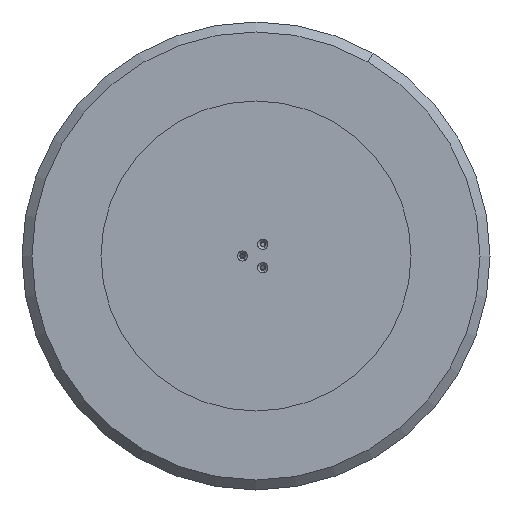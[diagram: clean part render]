
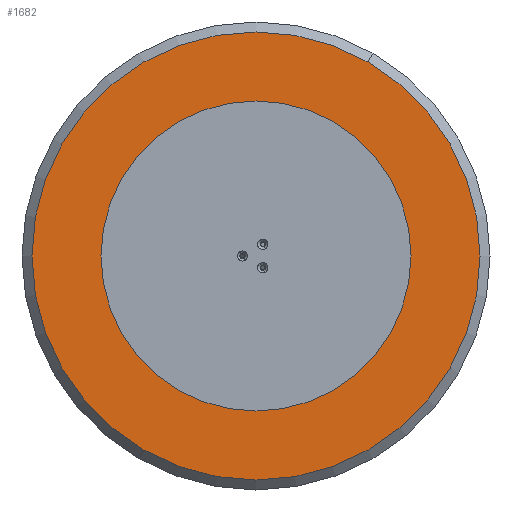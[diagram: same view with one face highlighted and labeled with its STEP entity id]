
A CAD part, front view. The second image highlights one B-rep face of the part: STEP entity #1682.
In plain terms, the highlighted planar face has unit normal (0, -1, 0).
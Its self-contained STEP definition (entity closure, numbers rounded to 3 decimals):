
#49 = ORIENTED_EDGE ( 'NONE', *, *, #5800, .F. ) ;
#65 = AXIS2_PLACEMENT_3D ( 'NONE', #2132, #2068, #2491 ) ;
#106 = EDGE_CURVE ( 'NONE', #3121, #3638, #1107, .T. ) ;
#152 = FACE_BOUND ( 'NONE', #5458, .T. ) ;
#161 = CIRCLE ( 'NONE', #3762, 383. ) ;
#163 = CARTESIAN_POINT ( 'NONE',  ( 0., 0., 106.297 ) ) ;
#280 = FACE_BOUND ( 'NONE', #3341, .T. ) ;
#285 = AXIS2_PLACEMENT_3D ( 'NONE', #3302, #4666, #5629 ) ;
#381 = CIRCLE ( 'NONE', #3596, 383. ) ;
#466 = ORIENTED_EDGE ( 'NONE', *, *, #1979, .F. ) ;
#481 = AXIS2_PLACEMENT_3D ( 'NONE', #704, #2120, #3601 ) ;
#683 = CIRCLE ( 'NONE', #5390, 3.4 ) ;
#688 = ORIENTED_EDGE ( 'NONE', *, *, #3974, .F. ) ;
#693 = AXIS2_PLACEMENT_3D ( 'NONE', #962, #5774, #4875 ) ;
#704 = CARTESIAN_POINT ( 'NONE',  ( 0., 0., 0. ) ) ;
#709 = CARTESIAN_POINT ( 'NONE',  ( 95., 0., -51.448 ) ) ;
#823 = VERTEX_POINT ( 'NONE', #709 ) ;
#916 = ORIENTED_EDGE ( 'NONE', *, *, #6206, .F. ) ;
#930 = AXIS2_PLACEMENT_3D ( 'NONE', #6065, #3189, #1704 ) ;
#962 = CARTESIAN_POINT ( 'NONE',  ( 0., 0., 109.697 ) ) ;
#968 = CARTESIAN_POINT ( 'NONE',  ( -95., 0., -58.248 ) ) ;
#1017 = EDGE_LOOP ( 'NONE', ( #466, #688 ) ) ;
#1090 = CIRCLE ( 'NONE', #6115, 3.4 ) ;
#1092 = DIRECTION ( 'NONE',  ( 0., 0., -1. ) ) ;
#1107 = CIRCLE ( 'NONE', #285, 3.4 ) ;
#1179 = FACE_BOUND ( 'NONE', #1017, .T. ) ;
#1215 = FACE_BOUND ( 'NONE', #2339, .T. ) ;
#1249 = ORIENTED_EDGE ( 'NONE', *, *, #2662, .F. ) ;
#1393 = VERTEX_POINT ( 'NONE', #5384 ) ;
#1599 = DIRECTION ( 'NONE',  ( 0., 0., -1. ) ) ;
#1682 = ADVANCED_FACE ( 'NONE', ( #280, #1215, #1179, #2767, #152 ), #3186, .T. ) ;
#1703 = VERTEX_POINT ( 'NONE', #2256 ) ;
#1704 = DIRECTION ( 'NONE',  ( 0., 0., -1. ) ) ;
#1805 = EDGE_CURVE ( 'NONE', #5162, #3375, #161, .T. ) ;
#1979 = EDGE_CURVE ( 'NONE', #1703, #823, #1090, .T. ) ;
#2068 = DIRECTION ( 'NONE',  ( 0., -1., 0. ) ) ;
#2120 = DIRECTION ( 'NONE',  ( 0., -1., 0. ) ) ;
#2124 = ORIENTED_EDGE ( 'NONE', *, *, #106, .F. ) ;
#2132 = CARTESIAN_POINT ( 'NONE',  ( -95., 0., -54.848 ) ) ;
#2242 = CIRCLE ( 'NONE', #2647, 3.4 ) ;
#2256 = CARTESIAN_POINT ( 'NONE',  ( 95., 0., -58.248 ) ) ;
#2339 = EDGE_LOOP ( 'NONE', ( #1249, #916 ) ) ;
#2430 = ORIENTED_EDGE ( 'NONE', *, *, #2745, .F. ) ;
#2470 = DIRECTION ( 'NONE',  ( 0., -1., 0. ) ) ;
#2491 = DIRECTION ( 'NONE',  ( 0., 0., -1. ) ) ;
#2593 = VERTEX_POINT ( 'NONE', #163 ) ;
#2647 = AXIS2_PLACEMENT_3D ( 'NONE', #4454, #5991, #1599 ) ;
#2662 = EDGE_CURVE ( 'NONE', #2593, #1393, #683, .T. ) ;
#2721 = CARTESIAN_POINT ( 'NONE',  ( 0., 0., 0. ) ) ;
#2745 = EDGE_CURVE ( 'NONE', #5352, #2884, #2845, .T. ) ;
#2767 = FACE_OUTER_BOUND ( 'NONE', #5439, .T. ) ;
#2838 = CARTESIAN_POINT ( 'NONE',  ( 0., 0., -383. ) ) ;
#2845 = CIRCLE ( 'NONE', #65, 3.4 ) ;
#2884 = VERTEX_POINT ( 'NONE', #4211 ) ;
#2948 = CARTESIAN_POINT ( 'NONE',  ( 95., 0., -54.848 ) ) ;
#3086 = CIRCLE ( 'NONE', #930, 3.4 ) ;
#3121 = VERTEX_POINT ( 'NONE', #3128 ) ;
#3128 = CARTESIAN_POINT ( 'NONE',  ( 0., 0., -3.4 ) ) ;
#3186 = PLANE ( 'NONE',  #481 ) ;
#3189 = DIRECTION ( 'NONE',  ( 0., -1., 0. ) ) ;
#3302 = CARTESIAN_POINT ( 'NONE',  ( 0., 0., 0. ) ) ;
#3341 = EDGE_LOOP ( 'NONE', ( #2430, #5613 ) ) ;
#3375 = VERTEX_POINT ( 'NONE', #3867 ) ;
#3473 = CIRCLE ( 'NONE', #693, 3.4 ) ;
#3510 = DIRECTION ( 'NONE',  ( 0., 0., -1. ) ) ;
#3584 = DIRECTION ( 'NONE',  ( 0., 0., -1. ) ) ;
#3596 = AXIS2_PLACEMENT_3D ( 'NONE', #4082, #3605, #3510 ) ;
#3601 = DIRECTION ( 'NONE',  ( 0., 0., -1. ) ) ;
#3605 = DIRECTION ( 'NONE',  ( 0., -1., 0. ) ) ;
#3638 = VERTEX_POINT ( 'NONE', #5963 ) ;
#3697 = ORIENTED_EDGE ( 'NONE', *, *, #5533, .T. ) ;
#3761 = CARTESIAN_POINT ( 'NONE',  ( -95., 0., -54.848 ) ) ;
#3762 = AXIS2_PLACEMENT_3D ( 'NONE', #2721, #6211, #4670 ) ;
#3781 = CIRCLE ( 'NONE', #3976, 3.4 ) ;
#3867 = CARTESIAN_POINT ( 'NONE',  ( 0., 0., 383. ) ) ;
#3974 = EDGE_CURVE ( 'NONE', #823, #1703, #2242, .T. ) ;
#3976 = AXIS2_PLACEMENT_3D ( 'NONE', #3761, #5743, #4815 ) ;
#4082 = CARTESIAN_POINT ( 'NONE',  ( 0., 0., 0. ) ) ;
#4211 = CARTESIAN_POINT ( 'NONE',  ( -95., 0., -51.448 ) ) ;
#4454 = CARTESIAN_POINT ( 'NONE',  ( 95., 0., -54.848 ) ) ;
#4666 = DIRECTION ( 'NONE',  ( 0., -1., 0. ) ) ;
#4670 = DIRECTION ( 'NONE',  ( 0., 0., -1. ) ) ;
#4815 = DIRECTION ( 'NONE',  ( 0., 0., -1. ) ) ;
#4875 = DIRECTION ( 'NONE',  ( 0., 0., -1. ) ) ;
#4919 = CARTESIAN_POINT ( 'NONE',  ( 0., 0., 109.697 ) ) ;
#5008 = DIRECTION ( 'NONE',  ( 0., -1., 0. ) ) ;
#5162 = VERTEX_POINT ( 'NONE', #2838 ) ;
#5352 = VERTEX_POINT ( 'NONE', #968 ) ;
#5384 = CARTESIAN_POINT ( 'NONE',  ( 0., 0., 113.097 ) ) ;
#5390 = AXIS2_PLACEMENT_3D ( 'NONE', #4919, #5008, #1092 ) ;
#5439 = EDGE_LOOP ( 'NONE', ( #3697, #5726 ) ) ;
#5458 = EDGE_LOOP ( 'NONE', ( #2124, #49 ) ) ;
#5533 = EDGE_CURVE ( 'NONE', #3375, #5162, #381, .T. ) ;
#5613 = ORIENTED_EDGE ( 'NONE', *, *, #6073, .F. ) ;
#5629 = DIRECTION ( 'NONE',  ( 0., 0., -1. ) ) ;
#5726 = ORIENTED_EDGE ( 'NONE', *, *, #1805, .T. ) ;
#5743 = DIRECTION ( 'NONE',  ( 0., -1., 0. ) ) ;
#5774 = DIRECTION ( 'NONE',  ( 0., -1., 0. ) ) ;
#5800 = EDGE_CURVE ( 'NONE', #3638, #3121, #3086, .T. ) ;
#5963 = CARTESIAN_POINT ( 'NONE',  ( 0., 0., 3.4 ) ) ;
#5991 = DIRECTION ( 'NONE',  ( 0., -1., 0. ) ) ;
#6065 = CARTESIAN_POINT ( 'NONE',  ( 0., 0., 0. ) ) ;
#6073 = EDGE_CURVE ( 'NONE', #2884, #5352, #3781, .T. ) ;
#6115 = AXIS2_PLACEMENT_3D ( 'NONE', #2948, #2470, #3584 ) ;
#6206 = EDGE_CURVE ( 'NONE', #1393, #2593, #3473, .T. ) ;
#6211 = DIRECTION ( 'NONE',  ( 0., -1., 0. ) ) ;
